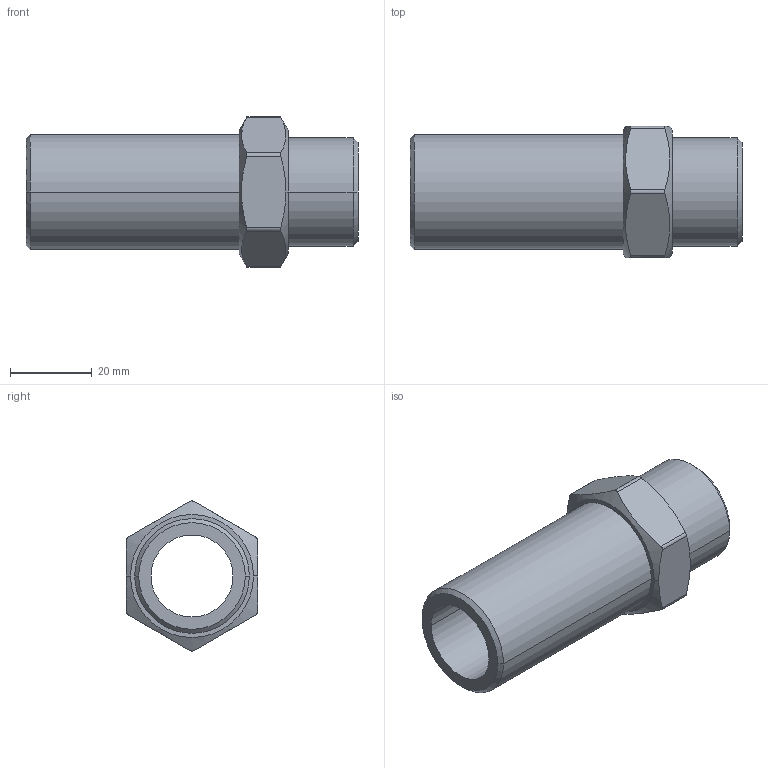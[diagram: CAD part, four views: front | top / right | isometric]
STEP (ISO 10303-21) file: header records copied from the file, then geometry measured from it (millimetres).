
FILE_DESCRIPTION (( 'STEP AP214' ), '1' );
FILE_NAME ('R238.028.034.STEP', '2019-10-24T14:49:11', ( '' ), ( '' ), 'SwSTEP 2.0', 'SolidWorks 2018', '' );
FILE_SCHEMA (( 'AUTOMOTIVE_DESIGN' ));
Length unit declared in the file: millimetre
Products named in the file (1): R238.028.034
Bounding box: 81 x 32 x 36.64 mm (x, y, z)
Volume: 26223.2 mm3; surface area: 13252.5 mm2
Topology: 1 solids, 1 shells, 30 faces, 74 edges, 48 vertices
Faces by surface type: cylinder 12, plane 10, cone 8
Entity records: 1094 total; most frequent: CARTESIAN_POINT 357, ORIENTED_EDGE 148, DIRECTION 128, EDGE_CURVE 74, AXIS2_PLACEMENT_3D 51, VERTEX_POINT 48, EDGE_LOOP 34, FACE_OUTER_BOUND 30
